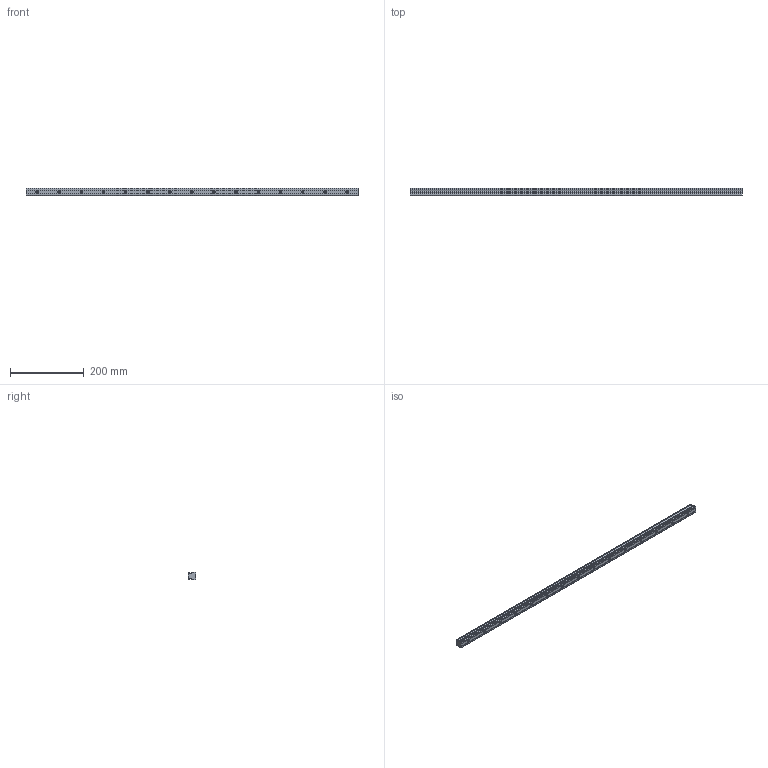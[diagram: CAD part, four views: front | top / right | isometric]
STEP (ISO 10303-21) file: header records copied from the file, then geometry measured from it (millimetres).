
FILE_DESCRIPTION (( 'STEP AP203' ), '1' );
FILE_NAME ('L1018.20R-0900.step', '2023-08-06T09:06:37', ( '' ), ( '' ), 'SwSTEP 2.0', 'SolidWorks 2019', '' );
FILE_SCHEMA (( 'CONFIG_CONTROL_DESIGN' ));
Length unit declared in the file: millimetre
Products named in the file (1): L1018.20R-0900
Bounding box: 900 x 19.3 x 20 mm (x, y, z)
Volume: 285415.4 mm3; surface area: 76599 mm2
Topology: 1 solids, 1 shells, 164 faces, 381 edges, 219 vertices
Faces by surface type: cylinder 63, cone 60, plane 41
Entity records: 4508 total; most frequent: DIRECTION 837, CARTESIAN_POINT 735, ORIENTED_EDGE 702, EDGE_CURVE 351, AXIS2_PLACEMENT_3D 321, VERTEX_POINT 219, LINE 195, VECTOR 195
